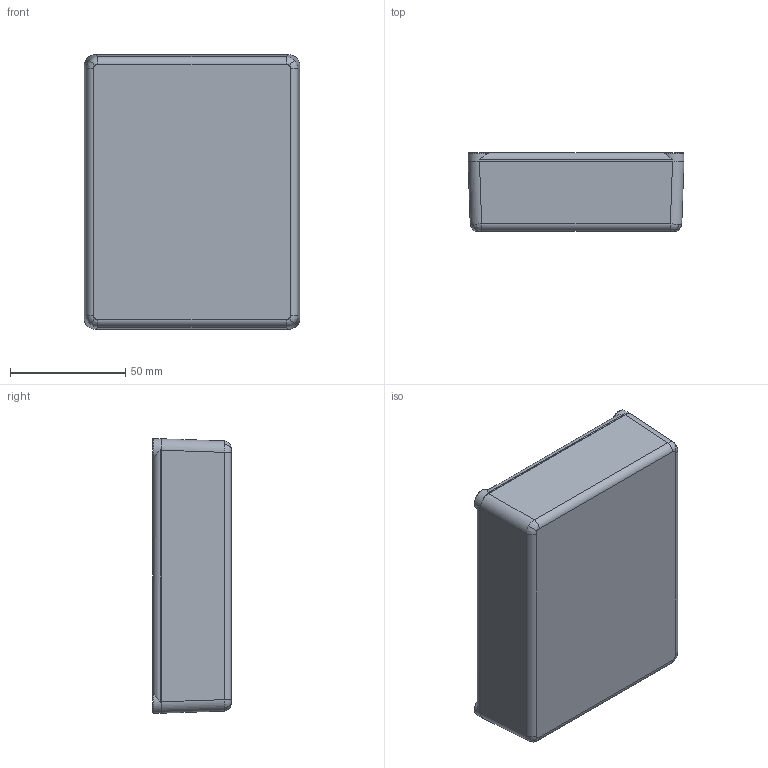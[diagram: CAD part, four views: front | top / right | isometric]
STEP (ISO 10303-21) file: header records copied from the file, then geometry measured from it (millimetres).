
FILE_DESCRIPTION (( 'STEP AP214' ), '1' );
FILE_NAME ('CU-473.STEP', '2011-10-20T12:23:33', ( 'ENG1' ), ( '' ), 'SwSTEP 2.0', 'SolidWorks 2010', '' );
FILE_SCHEMA (( 'AUTOMOTIVE_DESIGN' ));
Length unit declared in the file: inch
Products named in the file (3): 473-B; 234-C; CU-473
Assembly tree (2 placements, depth 2):
  CU-473
    473-B
    234-C
Bounding box: 93.68 x 34.04 x 119.08 mm (x, y, z)
Volume: 75838.8 mm3; surface area: 70286.5 mm2
Topology: 2 solids, 2 shells, 149 faces, 394 edges, 236 vertices
Faces by surface type: cylinder 62, plane 31, cone 22, bspline 16, torus 10, sphere 8
Entity records: 5956 total; most frequent: CARTESIAN_POINT 2316, ORIENTED_EDGE 756, DIRECTION 740, EDGE_CURVE 378, AXIS2_PLACEMENT_3D 294, VERTEX_POINT 236, EDGE_LOOP 160, CIRCLE 156
